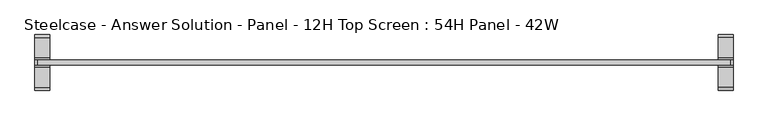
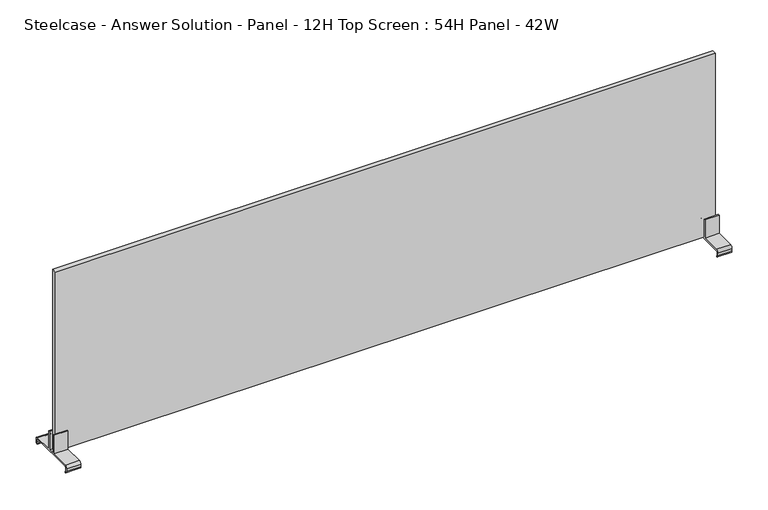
"""IFC4 building model written with IfcOpenShell, lengths in millimetres: furniture geometry, Steelcase - Answer Solution - Panel - 12H Top Screen : 54H Panel - 42W."""

from ifc_helpers import new_model, si_unit, point, frame, frame_2d, origin, place, context, project, spatial, polyline, circle_curve, trimmed, segment, composite_curve, outline, extrude, source, transform, mapped, element, save


def steelcase_answer_solution_panel_12h_top_screen_54h_panel_42w_0c265953(model_context):
    return source(origin(), model_context, "Body", "SweptSolid", [
        extrude(outline(polyline([(529.336, -3.683001), (-529.336, -3.683001), (-529.336, 3.683001), (529.336, 3.683001), (529.336, -3.683001)])), frame((0.0, 0.0, 1379.9819981), z_axis=(0.0, 0.0, 1.0), x_axis=(1.0, 0.0, 0.0)), (0.0, 0.0, 1.0), 304.8),
        extrude(outline(composite_curve([segment(trimmed(circle_curve(frame_2d((38.5445, 1376.045)), 1.905), [point((40.4495, 1376.045))], [point((38.5445, 1377.95))], True, "CARTESIAN"), True, "CONTINUOUS"), segment(polyline([(38.5445, 1377.95), (-38.5445, 1377.95)]), True, "CONTINUOUS"), segment(trimmed(circle_curve(frame_2d((-38.5445, 1376.045)), 1.905), [point((-38.5445, 1377.95))], [point((-40.4495, 1376.045))], True, "CARTESIAN"), True, "CONTINUOUS"), segment(polyline([(-40.4495, 1376.045), (-40.4495, 1371.4341187)]), True, "CONTINUOUS"), segment(trimmed(circle_curve(frame_2d((-38.5445, 1371.4341187)), 1.905), [point((-40.4495, 1371.4341187))], [point((-38.6743328, 1369.5335481))], True, "CARTESIAN"), True, "CONTINUOUS"), segment(polyline([(-38.6743328, 1369.5335481), (-39.2392449, 1367.9535566)]), True, "CONTINUOUS"), segment(trimmed(circle_curve(frame_2d((-38.5459934, 1371.8284569)), 3.9364261), [point((-39.2392449, 1367.9535566))], [point((-42.4824195, 1371.8284569))], False, "CARTESIAN"), True, "CONTINUOUS"), segment(polyline([(-42.4824195, 1371.8284569), (-42.4824195, 1376.0452288)]), True, "CONTINUOUS"), segment(trimmed(circle_curve(frame_2d((-38.5459934, 1376.0452288)), 3.9364261), [point((-42.4824195, 1376.0452288))], [point((-38.5459934, 1379.9816549))], False, "CARTESIAN"), True, "CONTINUOUS"), segment(polyline([(-38.5459934, 1379.9816549), (-6.7310004, 1379.9816549), (-6.7310004, 1410.9699952), (-4.699, 1410.9699952), (-4.699, 1379.9819952), (4.699, 1379.9819952), (4.699, 1410.9700048), (6.7310004, 1410.9700048), (6.7310004, 1379.9816549), (38.5459934, 1379.9816549)]), True, "CONTINUOUS"), segment(trimmed(circle_curve(frame_2d((38.5459934, 1376.0452288)), 3.9364261), [point((38.5459934, 1379.9816549))], [point((42.4824195, 1376.0452288))], False, "CARTESIAN"), True, "CONTINUOUS"), segment(polyline([(42.4824195, 1376.0452288), (42.4824195, 1371.8284569)]), True, "CONTINUOUS"), segment(trimmed(circle_curve(frame_2d((38.5459934, 1371.8284569)), 3.9364261), [point((42.4824195, 1371.8284569))], [point((39.6631716, 1368.0538889))], False, "CARTESIAN"), True, "CONTINUOUS"), segment(polyline([(39.6631716, 1368.0538889), (39.1055128, 1369.6135996)]), True, "CONTINUOUS"), segment(trimmed(circle_curve(frame_2d((38.5445, 1371.4341187)), 1.905), [point((39.1055128, 1369.6135996))], [point((40.4495, 1371.4341187))], True, "CARTESIAN"), True, "CONTINUOUS"), segment(polyline([(40.4495, 1371.4341187), (40.4495, 1376.045)]), True, "CONTINUOUS")], self_intersect=False)), frame((510.794, 0.0, 0.0), z_axis=(1.0, 0.0, 0.0), x_axis=(0.0, 1.0, 0.0)), (0.0, 0.0, 1.0), 22.606),
        extrude(outline(composite_curve([segment(trimmed(circle_curve(frame_2d((38.5445, 1376.045)), 1.905), [point((40.4495, 1376.045))], [point((38.5445, 1377.95))], True, "CARTESIAN"), True, "CONTINUOUS"), segment(polyline([(38.5445, 1377.95), (-38.5445, 1377.95)]), True, "CONTINUOUS"), segment(trimmed(circle_curve(frame_2d((-38.5445, 1376.045)), 1.905), [point((-38.5445, 1377.95))], [point((-40.4495, 1376.045))], True, "CARTESIAN"), True, "CONTINUOUS"), segment(polyline([(-40.4495, 1376.045), (-40.4495, 1371.4341187)]), True, "CONTINUOUS"), segment(trimmed(circle_curve(frame_2d((-38.5445, 1371.4341187)), 1.905), [point((-40.4495, 1371.4341187))], [point((-38.6743328, 1369.5335481))], True, "CARTESIAN"), True, "CONTINUOUS"), segment(polyline([(-38.6743328, 1369.5335481), (-39.2392449, 1367.9535566)]), True, "CONTINUOUS"), segment(trimmed(circle_curve(frame_2d((-38.5459934, 1371.8284569)), 3.9364261), [point((-39.2392449, 1367.9535566))], [point((-42.4824195, 1371.8284569))], False, "CARTESIAN"), True, "CONTINUOUS"), segment(polyline([(-42.4824195, 1371.8284569), (-42.4824195, 1376.0452288)]), True, "CONTINUOUS"), segment(trimmed(circle_curve(frame_2d((-38.5459934, 1376.0452288)), 3.9364261), [point((-42.4824195, 1376.0452288))], [point((-38.5459934, 1379.9816549))], False, "CARTESIAN"), True, "CONTINUOUS"), segment(polyline([(-38.5459934, 1379.9816549), (-6.7310004, 1379.9816549), (-6.7310004, 1410.9699952), (-4.699, 1410.9699952), (-4.699, 1379.9819952), (4.699, 1379.9819952), (4.699, 1410.9700048), (6.7310004, 1410.9700048), (6.7310004, 1379.9816549), (38.5459934, 1379.9816549)]), True, "CONTINUOUS"), segment(trimmed(circle_curve(frame_2d((38.5459934, 1376.0452288)), 3.9364261), [point((38.5459934, 1379.9816549))], [point((42.4824195, 1376.0452288))], False, "CARTESIAN"), True, "CONTINUOUS"), segment(polyline([(42.4824195, 1376.0452288), (42.4824195, 1371.8284569)]), True, "CONTINUOUS"), segment(trimmed(circle_curve(frame_2d((38.5459934, 1371.8284569)), 3.9364261), [point((42.4824195, 1371.8284569))], [point((39.6631716, 1368.0538889))], False, "CARTESIAN"), True, "CONTINUOUS"), segment(polyline([(39.6631716, 1368.0538889), (39.1055128, 1369.6135996)]), True, "CONTINUOUS"), segment(trimmed(circle_curve(frame_2d((38.5445, 1371.4341187)), 1.905), [point((39.1055128, 1369.6135996))], [point((40.4495, 1371.4341187))], True, "CARTESIAN"), True, "CONTINUOUS"), segment(polyline([(40.4495, 1371.4341187), (40.4495, 1376.045)]), True, "CONTINUOUS")], self_intersect=False)), frame((-533.4, 0.0, 0.0), z_axis=(1.0, 0.0, 0.0), x_axis=(0.0, 1.0, 0.0)), (0.0, 0.0, 1.0), 22.606),
    ])


if __name__ == "__main__":
    model = new_model("IFC4")
    model_context = context("Model", 3, world=origin())
    ifc_project = project(units=[si_unit("LENGTHUNIT", "METRE", prefix="MILLI")], contexts=[model_context])
    site = spatial("IfcSite", under=ifc_project)
    building = spatial("IfcBuilding", under=site)
    placement = place(None, origin())
    steelcase_answer_solution_panel_12h_top_screen_54h_panel_42w_shape = steelcase_answer_solution_panel_12h_top_screen_54h_panel_42w_0c265953(model_context)
    element("IfcFurniture", 1, ObjectType="Steelcase - Answer Solution - Panel - 12H Top Screen : 54H Panel - 42W", at=placement, inside=building, context=model_context, shape_type="MappedRepresentation", body=[
        mapped(steelcase_answer_solution_panel_12h_top_screen_54h_panel_42w_shape, transform((0.0, 0.0, 0.0), x_axis=(1.0, 0.0, 0.0), y_axis=(0.0, 1.0, 0.0), z_axis=(0.0, 0.0, 1.0))),
    ])
    save(model, "model.ifc")
